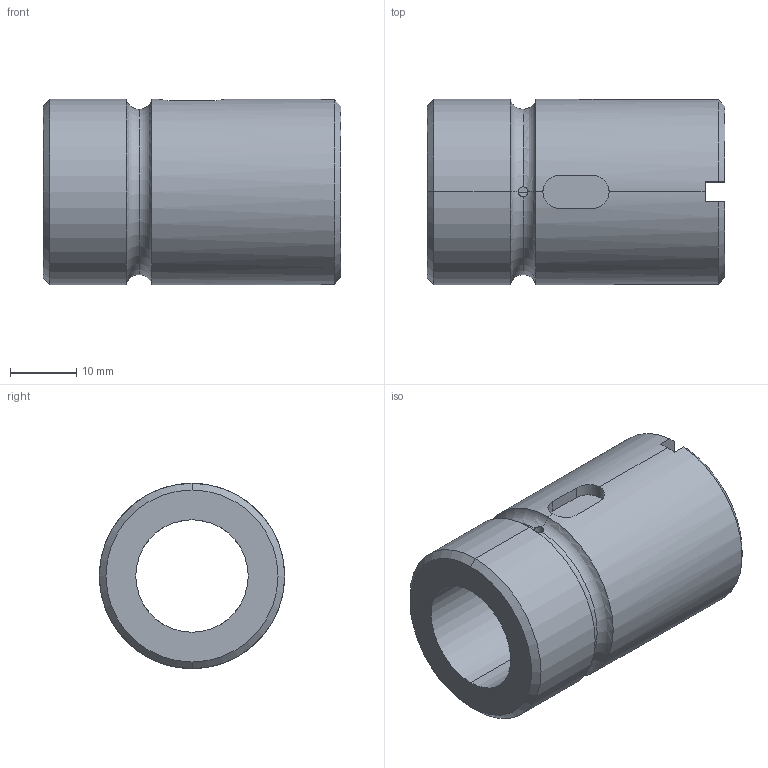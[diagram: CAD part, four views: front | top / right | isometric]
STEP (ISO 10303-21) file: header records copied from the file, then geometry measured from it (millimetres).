
FILE_DESCRIPTION (( 'STEP AP214' ), '1' );
FILE_NAME ('KGM-D 1640.STEP', '2021-01-18T08:53:01', ( 'user' ), ( 'datathink' ), 'SwSTEP 2.0', 'SolidWorks 2013', '' );
FILE_SCHEMA (( 'AUTOMOTIVE_DESIGN' ));
Length unit declared in the file: millimetre
Products named in the file (1): KGM-D 1640
Bounding box: 45 x 28 x 28 mm (x, y, z)
Volume: 16857.4 mm3; surface area: 7219.5 mm2
Topology: 1 solids, 1 shells, 31 faces, 84 edges, 52 vertices
Faces by surface type: plane 12, cylinder 11, torus 4, cone 4
Entity records: 1125 total; most frequent: CARTESIAN_POINT 304, ORIENTED_EDGE 168, DIRECTION 167, EDGE_CURVE 84, AXIS2_PLACEMENT_3D 65, VERTEX_POINT 52, VECTOR 37, LINE 37
